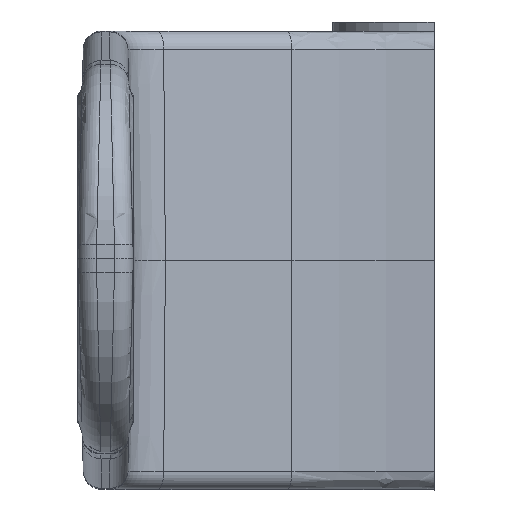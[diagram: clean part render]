
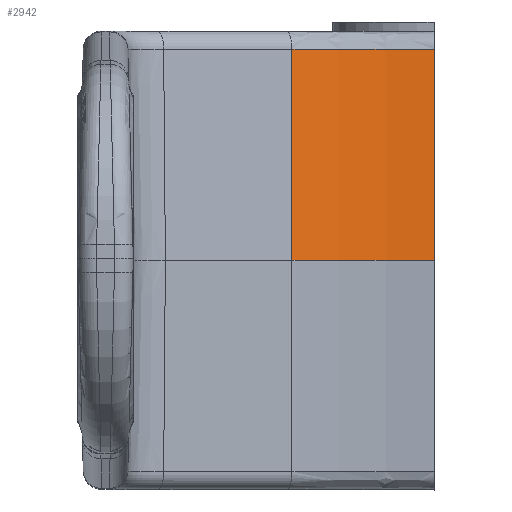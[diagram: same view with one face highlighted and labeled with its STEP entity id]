
A CAD part, top view. The second image highlights one B-rep face of the part: STEP entity #2942.
In plain terms, the highlighted cylindrical face has radius 50 mm (diameter 100 mm), a partial arc.
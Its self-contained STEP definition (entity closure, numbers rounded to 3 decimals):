
#67=DIRECTION('',(0.,1.,-0.028));
#68=VECTOR('',#67,22.814);
#69=CARTESIAN_POINT('',(0.,0.,
15.044));
#70=LINE('',#69,#68);
#737=CARTESIAN_POINT('',(0.,0.,
15.044));
#738=CARTESIAN_POINT('',(-1.735,0.,
15.044));
#739=CARTESIAN_POINT('',(-5.206,0.,15.225));
#740=CARTESIAN_POINT('',(-10.356,0.,
16.036));
#741=CARTESIAN_POINT('',(-13.715,0.,16.931));
#742=CARTESIAN_POINT('',(-15.366,0.,
17.464));
#744=CARTESIAN_POINT('',(-15.366,22.802,16.837));
#745=CARTESIAN_POINT('',(-13.943,22.803,16.377));
#746=CARTESIAN_POINT('',(-11.137,22.804,15.608));
#747=CARTESIAN_POINT('',(-6.883,22.805,14.832));
#748=CARTESIAN_POINT('',(-3.186,22.805,14.477));
#749=CARTESIAN_POINT('',(-0.886,22.805,14.416));
#750=CARTESIAN_POINT('',(0.,22.805,
14.416));
#1701=DIRECTION('',(0.,-1.,0.028));
#1702=VECTOR('',#1701,22.811);
#1703=CARTESIAN_POINT('',(-15.366,22.802,16.837));
#1704=LINE('',#1703,#1702);
#1759=CARTESIAN_POINT('',(0.,0.,
15.044));
#1760=VERTEX_POINT('',#1759);
#1761=CARTESIAN_POINT('',(0.,22.805,
14.416));
#1762=VERTEX_POINT('',#1761);
#1841=CARTESIAN_POINT('',(-15.366,22.802,16.837));
#1842=VERTEX_POINT('',#1841);
#1843=VERTEX_POINT('',#742);
#2929=CARTESIAN_POINT('',(0.,-89.879,67.536));
#2930=DIRECTION('',(0.,1.,-0.028));
#2931=DIRECTION('',(0.307,-0.026,-0.951));
#2932=AXIS2_PLACEMENT_3D('',#2929,#2930,#2931);
#2933=CYLINDRICAL_SURFACE('',#2932,50.);
#2934=ORIENTED_EDGE('',*,*,#2006,.F.);
#2936=ORIENTED_EDGE('',*,*,#2935,.T.);
#2938=ORIENTED_EDGE('',*,*,#2937,.F.);
#2939=ORIENTED_EDGE('',*,*,#2922,.T.);
#2940=EDGE_LOOP('',(#2934,#2936,#2938,#2939));
#2941=FACE_OUTER_BOUND('',#2940,.F.);
#2942=ADVANCED_FACE('',(#2941),#2933,.F.);
#743=B_SPLINE_CURVE_WITH_KNOTS('',3,(#737,#738,#739,#740,#741,#742),
.UNSPECIFIED.,.F.,.F.,(4,1,1,4),(0.,0.333,0.667,1.),
.UNSPECIFIED.);
#751=B_SPLINE_CURVE_WITH_KNOTS('',3,(#744,#745,#746,#747,#748,#749,#750),
.UNSPECIFIED.,.F.,.F.,(4,1,1,1,4),(0.,0.287,0.558,
0.83,1.),.UNSPECIFIED.);
#2006=EDGE_CURVE('',#1760,#1762,#70,.T.);
#2922=EDGE_CURVE('',#1842,#1762,#751,.T.);
#2935=EDGE_CURVE('',#1760,#1843,#743,.T.);
#2937=EDGE_CURVE('',#1842,#1843,#1704,.T.);
